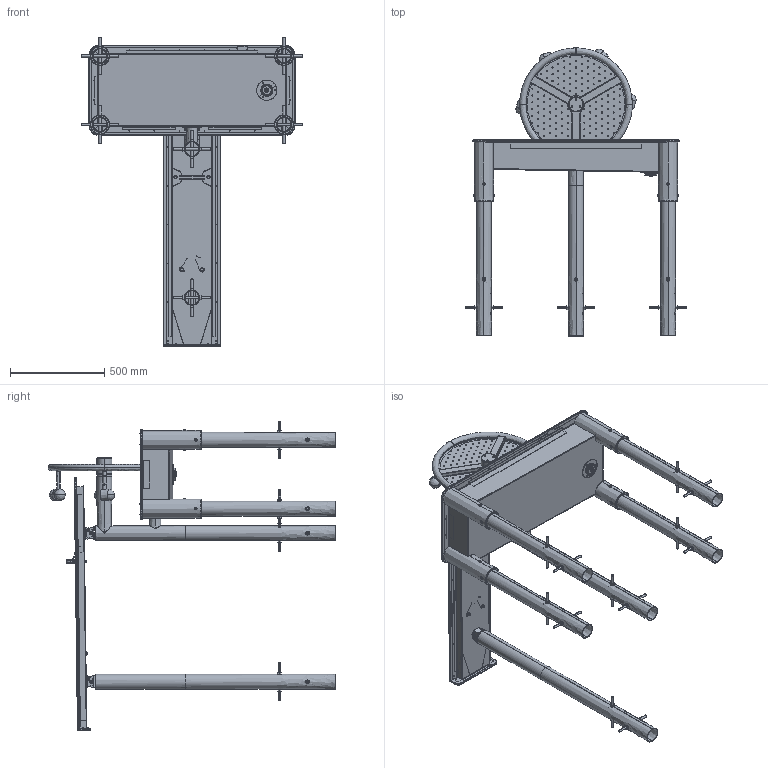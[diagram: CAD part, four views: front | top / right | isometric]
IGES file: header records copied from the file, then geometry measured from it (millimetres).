
Start section: SolidWorks IGES file using analytic representation for surfaces
Global section: file name: C:\Users\user18\OneDrive - KBT\Pulpit\KORONA-KOPIA\Water_Arek_Karol\XXX. Basic Water System\570.205.010.01x Water wheel\11. Modele 3D dla klientów\570.205.010.012 - Water wheel CA.IGS; native system: SolidWorks 2018; preprocessor: SolidWorks 2018; author: user18; date: 210325.091741; units: millimetre
Bounding box: 1178 x 1529.35 x 1646.5 mm (x, y, z)
Surface area: 7982733.9 mm2 (no closed solid volume)
Topology: 0 solids, 0 shells, 1560 faces, 32102 edges, 32063 vertices
Faces by surface type: revolution 808, bspline 752
